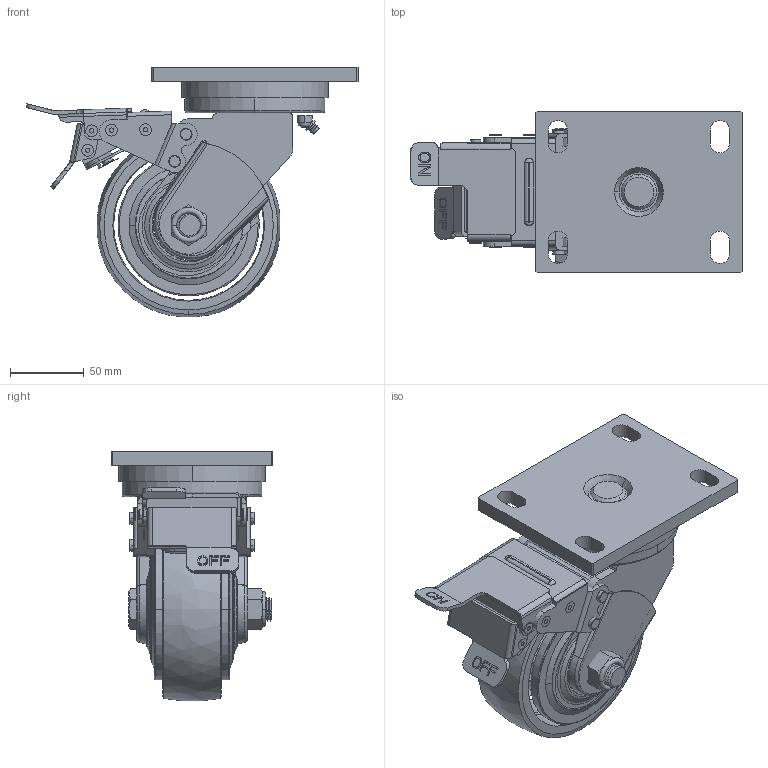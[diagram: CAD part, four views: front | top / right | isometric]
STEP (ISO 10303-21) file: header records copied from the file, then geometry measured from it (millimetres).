
FILE_DESCRIPTION((''),'2;1');
FILE_NAME('PRT0010','2025-02-15T14:01:11',('Administrator'),(''),'CREO PARAMETRIC BY PTC INC, 2022124','CREO PARAMETRIC BY PTC INC, 2022124','');
FILE_SCHEMA(('CONFIG_CONTROL_DESIGN','GEOMETRIC_VALIDATION_PROPERTIES_MIM'));
Length unit declared in the file: millimetre
Products named in the file (1): PRT0010
Bounding box: 225.49 x 110 x 169.78 mm (x, y, z)
Surface area: 175994.2 mm2 (no closed solid volume)
Topology: 0 solids, 74 shells, 370 faces, 1535 edges, 1227 vertices
Faces by surface type: plane 176, cylinder 105, cone 42, torus 37, bspline 9, extrusion 1
Entity records: 20855 total; most frequent: CARTESIAN_POINT 5818, DIRECTION 2574, ORIENTED_EDGE 2145, EDGE_CURVE 1535, VERTEX_POINT 1227, AXIS2_PLACEMENT_3D 891, VECTOR 792, LINE 791
